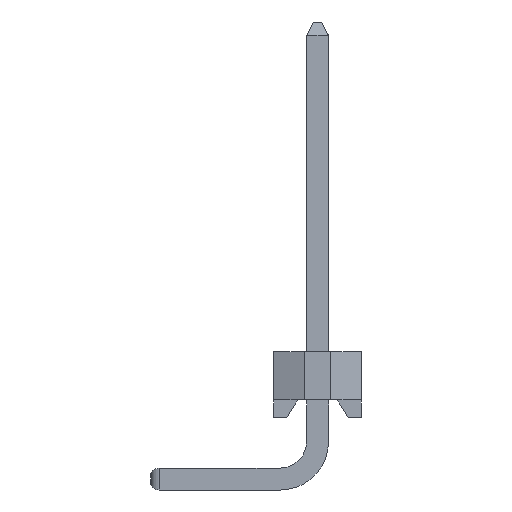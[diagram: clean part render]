
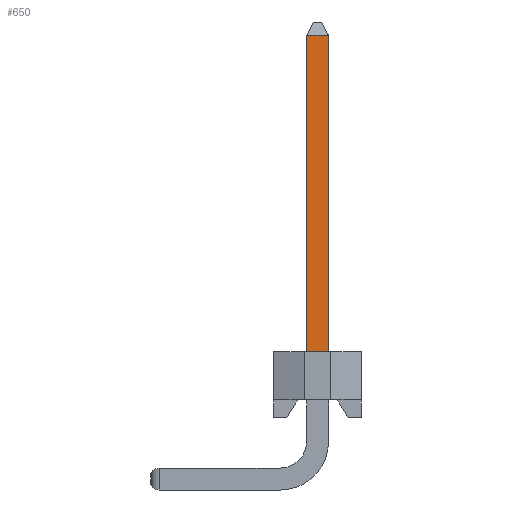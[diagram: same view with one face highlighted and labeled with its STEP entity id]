
A CAD part, left-side view. The second image highlights one B-rep face of the part: STEP entity #650.
In plain terms, the highlighted planar face has unit normal (-1, 0, 0).
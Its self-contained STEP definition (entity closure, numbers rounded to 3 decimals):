
#650=ADVANCED_FACE('',(#2902),#1878,.T.);
#1878=PLANE('',#22937);
#2902=FACE_OUTER_BOUND('',#4198,.T.);
#4198=EDGE_LOOP('',(#6862,#6863,#6864,#6865));
#6862=ORIENTED_EDGE('',*,*,#15102,.T.);
#6863=ORIENTED_EDGE('',*,*,#15103,.T.);
#6864=ORIENTED_EDGE('',*,*,#15104,.F.);
#6865=ORIENTED_EDGE('',*,*,#14602,.F.);
#12492=VERTEX_POINT('',#31899);
#12493=VERTEX_POINT('',#31900);
#12850=VERTEX_POINT('',#32763);
#12851=VERTEX_POINT('',#32765);
#14602=EDGE_CURVE('',#12492,#12493,#17804,.T.);
#15102=EDGE_CURVE('',#12492,#12850,#18304,.T.);
#15103=EDGE_CURVE('',#12850,#12851,#18305,.T.);
#15104=EDGE_CURVE('',#12493,#12851,#18306,.T.);
#17804=LINE('',#31898,#20734);
#18304=LINE('',#32762,#21234);
#18305=LINE('',#32764,#21235);
#18306=LINE('',#32766,#21236);
#20734=VECTOR('',#25299,1.);
#21234=VECTOR('',#25811,1.);
#21235=VECTOR('',#25812,1.);
#21236=VECTOR('',#25813,1.);
#22937=AXIS2_PLACEMENT_3D('',#32767,#25814,#25815);
#25299=DIRECTION('',(0.,1.,0.));
#25811=DIRECTION('',(0.,0.,1.));
#25812=DIRECTION('',(0.,1.,0.));
#25813=DIRECTION('',(0.,0.,1.));
#25814=DIRECTION('',(-1.,0.,0.));
#25815=DIRECTION('',(0.,0.,1.));
#31898=CARTESIAN_POINT('',(0.75,0.75,1.1));
#31899=CARTESIAN_POINT('',(0.75,0.75,1.1));
#31900=CARTESIAN_POINT('',(0.75,1.25,1.1));
#32762=CARTESIAN_POINT('',(0.75,0.75,8.6));
#32763=CARTESIAN_POINT('',(0.75,0.75,8.3));
#32764=CARTESIAN_POINT('',(0.75,0.75,8.3));
#32765=CARTESIAN_POINT('',(0.75,1.25,8.3));
#32766=CARTESIAN_POINT('',(0.75,1.25,8.6));
#32767=CARTESIAN_POINT('',(0.75,0.75,1.1));
